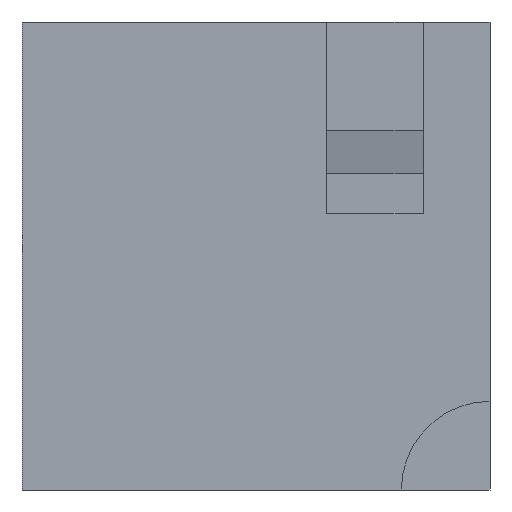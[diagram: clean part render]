
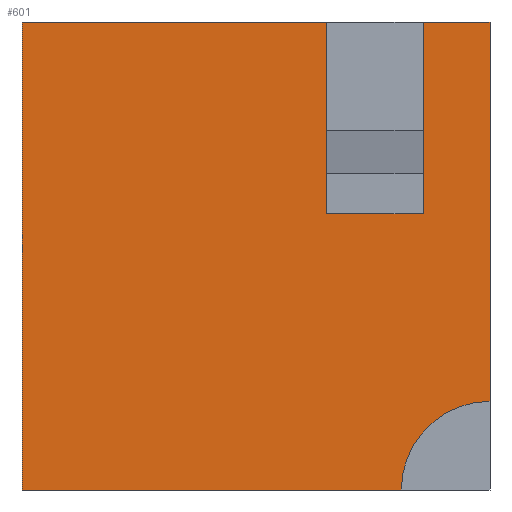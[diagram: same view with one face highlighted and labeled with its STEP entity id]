
A CAD part, left-side view. The second image highlights one B-rep face of the part: STEP entity #601.
In plain terms, the highlighted planar face has unit normal (-1, 0, 0).
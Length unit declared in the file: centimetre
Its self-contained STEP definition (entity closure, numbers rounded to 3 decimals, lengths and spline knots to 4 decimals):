
#21 = CARTESIAN_POINT ( 'NONE',  ( 0., 0., 189.4617 ) ) ;
#30 = DIRECTION ( 'NONE',  ( -1., 0., 0. ) ) ;
#44 = PLANE ( 'NONE',  #691 ) ;
#45 = VECTOR ( 'NONE', #849, 100. ) ;
#65 = LINE ( 'NONE', #484, #707 ) ;
#90 = ORIENTED_EDGE ( 'NONE', *, *, #139, .F. ) ;
#93 = CARTESIAN_POINT ( 'NONE',  ( 0., 1000., 1000. ) ) ;
#97 = CARTESIAN_POINT ( 'NONE',  ( 0., 349.1272, 590.1836 ) ) ;
#103 = DIRECTION ( 'NONE',  ( 0., -1., 0. ) ) ;
#113 = AXIS2_PLACEMENT_3D ( 'NONE', #245, #30, #816 ) ;
#117 = VECTOR ( 'NONE', #478, 100. ) ;
#125 = CARTESIAN_POINT ( 'NONE',  ( 0., 1000., 0. ) ) ;
#128 = EDGE_CURVE ( 'NONE', #218, #435, #65, .T. ) ;
#137 = DIRECTION ( 'NONE',  ( 0., -1., 0. ) ) ;
#139 = EDGE_CURVE ( 'NONE', #660, #890, #769, .T. ) ;
#140 = VERTEX_POINT ( 'NONE', #125 ) ;
#164 = DIRECTION ( 'NONE',  ( 0., -1., 0. ) ) ;
#179 = CARTESIAN_POINT ( 'NONE',  ( 0., 1000., 1000. ) ) ;
#183 = FACE_OUTER_BOUND ( 'NONE', #563, .T. ) ;
#193 = VECTOR ( 'NONE', #272, 100. ) ;
#218 = VERTEX_POINT ( 'NONE', #97 ) ;
#244 = LINE ( 'NONE', #93, #891 ) ;
#245 = CARTESIAN_POINT ( 'NONE',  ( 0., 0., 0. ) ) ;
#247 = LINE ( 'NONE', #468, #740 ) ;
#272 = DIRECTION ( 'NONE',  ( 0., 0., -1. ) ) ;
#275 = EDGE_CURVE ( 'NONE', #566, #514, #247, .T. ) ;
#287 = CARTESIAN_POINT ( 'NONE',  ( 0., 0., 1000. ) ) ;
#301 = ORIENTED_EDGE ( 'NONE', *, *, #665, .T. ) ;
#323 = CARTESIAN_POINT ( 'NONE',  ( 0., 1000., 1000. ) ) ;
#352 = CARTESIAN_POINT ( 'NONE',  ( 0., 142.8166, 590.1836 ) ) ;
#360 = CARTESIAN_POINT ( 'NONE',  ( 0., 1000., 1000. ) ) ;
#361 = VERTEX_POINT ( 'NONE', #414 ) ;
#398 = ORIENTED_EDGE ( 'NONE', *, *, #721, .F. ) ;
#401 = ORIENTED_EDGE ( 'NONE', *, *, #743, .T. ) ;
#407 = CIRCLE ( 'NONE', #113, 189.4617 ) ;
#414 = CARTESIAN_POINT ( 'NONE',  ( 0., 189.4617, 0. ) ) ;
#420 = LINE ( 'NONE', #560, #736 ) ;
#435 = VERTEX_POINT ( 'NONE', #480 ) ;
#448 = ORIENTED_EDGE ( 'NONE', *, *, #889, .F. ) ;
#457 = CARTESIAN_POINT ( 'NONE',  ( 0., 142.8166, 1000. ) ) ;
#468 = CARTESIAN_POINT ( 'NONE',  ( 0., 0., 1000. ) ) ;
#478 = DIRECTION ( 'NONE',  ( 0., -1., 0. ) ) ;
#480 = CARTESIAN_POINT ( 'NONE',  ( 0., 349.1272, 1000. ) ) ;
#484 = CARTESIAN_POINT ( 'NONE',  ( 0., 349.1272, 590.1836 ) ) ;
#514 = VERTEX_POINT ( 'NONE', #21 ) ;
#550 = LINE ( 'NONE', #323, #620 ) ;
#560 = CARTESIAN_POINT ( 'NONE',  ( 0., 1000., 0. ) ) ;
#563 = EDGE_LOOP ( 'NONE', ( #398, #792, #657, #401, #301, #913, #737, #448, #90 ) ) ;
#566 = VERTEX_POINT ( 'NONE', #287 ) ;
#578 = DIRECTION ( 'NONE',  ( 0., 0., 1. ) ) ;
#601 = ADVANCED_FACE ( 'NONE', ( #183 ), #44, .F. ) ;
#615 = EDGE_CURVE ( 'NONE', #514, #361, #407, .T. ) ;
#620 = VECTOR ( 'NONE', #103, 100. ) ;
#636 = LINE ( 'NONE', #780, #193 ) ;
#655 = EDGE_CURVE ( 'NONE', #827, #435, #550, .T. ) ;
#657 = ORIENTED_EDGE ( 'NONE', *, *, #655, .F. ) ;
#660 = VERTEX_POINT ( 'NONE', #748 ) ;
#665 = EDGE_CURVE ( 'NONE', #140, #361, #420, .T. ) ;
#691 = AXIS2_PLACEMENT_3D ( 'NONE', #179, #885, #882 ) ;
#707 = VECTOR ( 'NONE', #578, 100. ) ;
#721 = EDGE_CURVE ( 'NONE', #218, #660, #916, .T. ) ;
#736 = VECTOR ( 'NONE', #137, 100. ) ;
#737 = ORIENTED_EDGE ( 'NONE', *, *, #275, .F. ) ;
#740 = VECTOR ( 'NONE', #760, 100. ) ;
#743 = EDGE_CURVE ( 'NONE', #827, #140, #636, .T. ) ;
#748 = CARTESIAN_POINT ( 'NONE',  ( 0., 142.8166, 590.1836 ) ) ;
#760 = DIRECTION ( 'NONE',  ( 0., 0., -1. ) ) ;
#769 = LINE ( 'NONE', #352, #45 ) ;
#780 = CARTESIAN_POINT ( 'NONE',  ( 0., 1000., 1000. ) ) ;
#792 = ORIENTED_EDGE ( 'NONE', *, *, #128, .T. ) ;
#816 = DIRECTION ( 'NONE',  ( 0., 0., 1. ) ) ;
#827 = VERTEX_POINT ( 'NONE', #360 ) ;
#848 = CARTESIAN_POINT ( 'NONE',  ( 0., 142.8166, 590.1836 ) ) ;
#849 = DIRECTION ( 'NONE',  ( 0., 0., 1. ) ) ;
#882 = DIRECTION ( 'NONE',  ( 0., 0., -1. ) ) ;
#885 = DIRECTION ( 'NONE',  ( 1., 0., 0. ) ) ;
#889 = EDGE_CURVE ( 'NONE', #890, #566, #244, .T. ) ;
#890 = VERTEX_POINT ( 'NONE', #457 ) ;
#891 = VECTOR ( 'NONE', #164, 100. ) ;
#913 = ORIENTED_EDGE ( 'NONE', *, *, #615, .F. ) ;
#916 = LINE ( 'NONE', #848, #117 ) ;
